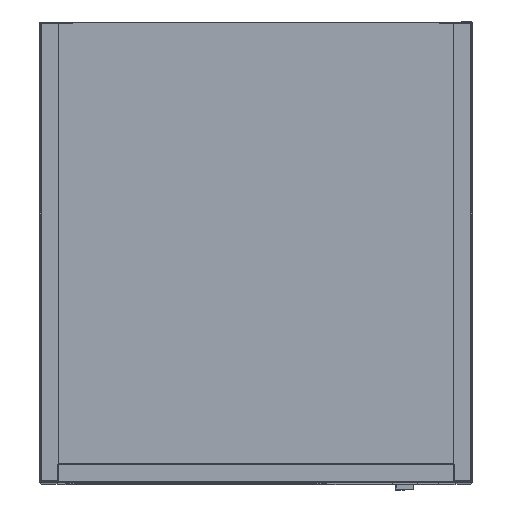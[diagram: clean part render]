
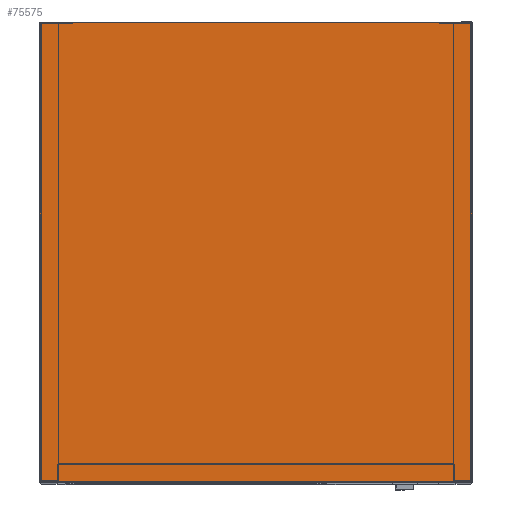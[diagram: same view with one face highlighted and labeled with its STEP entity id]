
A CAD part, top view. The second image highlights one B-rep face of the part: STEP entity #75575.
In plain terms, the highlighted planar face has unit normal (0, 0, 1).
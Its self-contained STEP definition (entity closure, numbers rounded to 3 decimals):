
#17175=ORIENTED_EDGE('',*,*,#31881,.F.);
#17176=ORIENTED_EDGE('',*,*,#31890,.T.);
#17177=ORIENTED_EDGE('',*,*,#31883,.F.);
#17178=ORIENTED_EDGE('',*,*,#31891,.T.);
#17179=ORIENTED_EDGE('',*,*,#31889,.F.);
#17180=ORIENTED_EDGE('',*,*,#31892,.T.);
#17181=ORIENTED_EDGE('',*,*,#31875,.F.);
#17182=ORIENTED_EDGE('',*,*,#31893,.T.);
#31875=EDGE_CURVE('',#40393,#40394,#48842,.T.);
#31881=EDGE_CURVE('',#40399,#40397,#48848,.T.);
#31883=EDGE_CURVE('',#40401,#40402,#48850,.T.);
#31889=EDGE_CURVE('',#40407,#40405,#48856,.T.);
#31890=EDGE_CURVE('',#40399,#40402,#48857,.T.);
#31891=EDGE_CURVE('',#40401,#40405,#48858,.T.);
#31892=EDGE_CURVE('',#40407,#40394,#48859,.T.);
#31893=EDGE_CURVE('',#40393,#40397,#48860,.T.);
#40393=VERTEX_POINT('',#121553);
#40394=VERTEX_POINT('',#121555);
#40397=VERTEX_POINT('',#121562);
#40399=VERTEX_POINT('',#121566);
#40401=VERTEX_POINT('',#121571);
#40402=VERTEX_POINT('',#121573);
#40405=VERTEX_POINT('',#121580);
#40407=VERTEX_POINT('',#121584);
#48842=LINE('',#121554,#57153);
#48848=LINE('',#121567,#57159);
#48850=LINE('',#121572,#57161);
#48856=LINE('',#121585,#57167);
#48857=LINE('',#121587,#57168);
#48858=LINE('',#121588,#57169);
#48859=LINE('',#121589,#57170);
#48860=LINE('',#121590,#57171);
#57153=VECTOR('',#98739,1000.);
#57159=VECTOR('',#98747,1000.);
#57161=VECTOR('',#98751,1000.);
#57167=VECTOR('',#98759,1000.);
#57168=VECTOR('',#98762,1000.);
#57169=VECTOR('',#98763,1000.);
#57170=VECTOR('',#98764,1000.);
#57171=VECTOR('',#98765,1000.);
#63352=EDGE_LOOP('',(#17175,#17176,#17177,#17178,#17179,#17180,#17181,#17182));
#68761=FACE_BOUND('',#63352,.T.);
#72361=PLANE('',#83840);
#75575=ADVANCED_FACE('',(#68761),#72361,.T.);
#83840=AXIS2_PLACEMENT_3D('',#121586,#98760,#98761);
#98739=DIRECTION('',(0.,1.,0.));
#98747=DIRECTION('',(0.,1.,0.));
#98751=DIRECTION('',(0.,-1.,0.));
#98759=DIRECTION('',(0.,-1.,0.));
#98760=DIRECTION('',(0.,0.,1.));
#98761=DIRECTION('',(1.,0.,0.));
#98762=DIRECTION('',(1.,0.,0.));
#98763=DIRECTION('',(0.,1.,0.));
#98764=DIRECTION('',(-1.,0.,0.));
#98765=DIRECTION('',(0.,-1.,0.));
#121553=CARTESIAN_POINT('',(-273.148,256.896,0.));
#121554=CARTESIAN_POINT('',(-273.148,-256.898,0.));
#121555=CARTESIAN_POINT('',(-273.148,256.898,0.));
#121562=CARTESIAN_POINT('',(-273.148,-256.896,0.));
#121566=CARTESIAN_POINT('',(-273.148,-256.898,0.));
#121567=CARTESIAN_POINT('',(-273.148,-256.898,0.));
#121571=CARTESIAN_POINT('',(273.148,-256.896,0.));
#121572=CARTESIAN_POINT('',(273.148,256.898,0.));
#121573=CARTESIAN_POINT('',(273.148,-256.898,0.));
#121580=CARTESIAN_POINT('',(273.148,256.896,0.));
#121584=CARTESIAN_POINT('',(273.148,256.898,0.));
#121585=CARTESIAN_POINT('',(273.148,256.898,0.));
#121586=CARTESIAN_POINT('',(-273.15,-256.9,0.));
#121587=CARTESIAN_POINT('',(-273.15,-256.898,0.));
#121588=CARTESIAN_POINT('',(273.148,-256.896,0.));
#121589=CARTESIAN_POINT('',(273.15,256.898,0.));
#121590=CARTESIAN_POINT('',(-273.148,256.896,0.));
